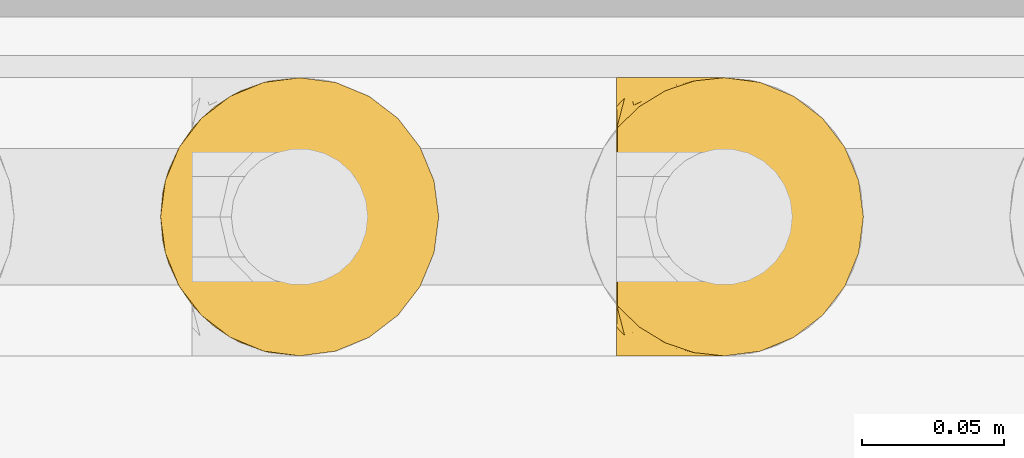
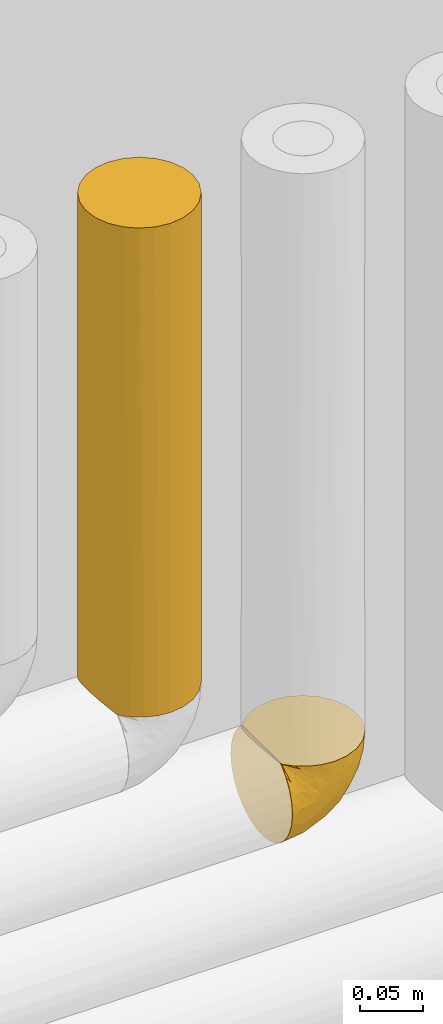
# One storey, part 57 of 94: 2 coverings.
"""IFC2X3 building model written with IfcOpenShell, lengths in millimetres."""

from ifc_helpers import new_model, entity, si_unit, converted_unit, derived_unit, direction, frame, origin, place, context, subcontext, project, spatial, faceted_brep, material, element, save


model = new_model("IFC2X3")

# Units and contexts
model_context = context("Model", 3, precision=0.01, world=origin(), true_north=direction((6.123031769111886e-17, 1.0)))
body_context = subcontext(model_context, "Body", "Model", "MODEL_VIEW")
ifc_project = project(units=[si_unit("LENGTHUNIT", "METRE", prefix="MILLI"), si_unit("AREAUNIT", "SQUARE_METRE"), si_unit("VOLUMEUNIT", "CUBIC_METRE"), converted_unit("PLANEANGLEUNIT", "DEGREE", entity("IfcRatioMeasure", 0.017453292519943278), si_unit("PLANEANGLEUNIT", "RADIAN"), dimensions=[0, 0, 0, 0, 0, 0, 0]), si_unit("MASSUNIT", "GRAM", prefix="KILO"), derived_unit("MASSDENSITYUNIT", [(si_unit("MASSUNIT", "GRAM", prefix="KILO"), 1), (si_unit("LENGTHUNIT", "METRE"), -3)]), derived_unit("IONCONCENTRATIONUNIT", [(si_unit("MASSUNIT", "GRAM", prefix="KILO"), 1), (si_unit("LENGTHUNIT", "METRE"), -3)]), derived_unit("MOMENTOFINERTIAUNIT", [(si_unit("LENGTHUNIT", "METRE"), 4)]), si_unit("TIMEUNIT", "SECOND"), si_unit("FREQUENCYUNIT", "HERTZ"), si_unit("THERMODYNAMICTEMPERATUREUNIT", "DEGREE_CELSIUS"), derived_unit("THERMALTRANSMITTANCEUNIT", [(si_unit("MASSUNIT", "GRAM", prefix="KILO"), 1), (si_unit("THERMODYNAMICTEMPERATUREUNIT", "KELVIN"), -1), (si_unit("TIMEUNIT", "SECOND"), -3)]), derived_unit("THERMALCONDUCTANCEUNIT", [(si_unit("MASSUNIT", "GRAM", prefix="KILO"), 1), (si_unit("THERMODYNAMICTEMPERATUREUNIT", "KELVIN"), -1), (si_unit("TIMEUNIT", "SECOND"), -3), (si_unit("LENGTHUNIT", "METRE"), 1)]), derived_unit("VOLUMETRICFLOWRATEUNIT", [(si_unit("LENGTHUNIT", "METRE"), 3), (si_unit("TIMEUNIT", "SECOND"), -1)]), derived_unit("MASSFLOWRATEUNIT", [(si_unit("MASSUNIT", "GRAM", prefix="KILO"), 1), (si_unit("TIMEUNIT", "SECOND"), -1)]), derived_unit("ROTATIONALFREQUENCYUNIT", [(si_unit("TIMEUNIT", "SECOND"), -1)]), si_unit("ELECTRICCURRENTUNIT", "AMPERE"), si_unit("ELECTRICVOLTAGEUNIT", "VOLT"), si_unit("POWERUNIT", "WATT"), si_unit("FORCEUNIT", "NEWTON", prefix="KILO"), si_unit("ILLUMINANCEUNIT", "LUX"), si_unit("LUMINOUSFLUXUNIT", "LUMEN"), si_unit("LUMINOUSINTENSITYUNIT", "CANDELA"), derived_unit("USERDEFINED", [(si_unit("MASSUNIT", "GRAM", prefix="KILO"), -1), (si_unit("LENGTHUNIT", "METRE"), -2), (si_unit("TIMEUNIT", "SECOND"), 3), (si_unit("LUMINOUSFLUXUNIT", "LUMEN"), 1)]), derived_unit("USERDEFINED", [(si_unit("MASSUNIT", "GRAM", prefix="KILO"), 1), (si_unit("TIMEUNIT", "SECOND"), -3), (si_unit("LENGTHUNIT", "METRE"), 3), (si_unit("ELECTRICCURRENTUNIT", "AMPERE"), -2)]), derived_unit("SOUNDPOWERUNIT", [(si_unit("MASSUNIT", "GRAM", prefix="KILO"), 1), (si_unit("TIMEUNIT", "SECOND"), -3), (si_unit("LENGTHUNIT", "METRE"), 2)]), derived_unit("SOUNDPRESSUREUNIT", [(si_unit("MASSUNIT", "GRAM", prefix="KILO"), 1), (si_unit("LENGTHUNIT", "METRE"), -1), (si_unit("TIMEUNIT", "SECOND"), -2)]), derived_unit("LINEARVELOCITYUNIT", [(si_unit("LENGTHUNIT", "METRE"), 1), (si_unit("TIMEUNIT", "SECOND"), -1)]), si_unit("PRESSUREUNIT", "PASCAL"), derived_unit("USERDEFINED", [(si_unit("MASSUNIT", "GRAM", prefix="KILO"), 1), (si_unit("LENGTHUNIT", "METRE"), -2), (si_unit("TIMEUNIT", "SECOND"), -2)]), derived_unit("LINEARFORCEUNIT", [(si_unit("MASSUNIT", "GRAM", prefix="KILO"), 1), (si_unit("TIMEUNIT", "SECOND"), -2)]), derived_unit("PLANARFORCEUNIT", [(si_unit("MASSUNIT", "GRAM", prefix="KILO"), 1), (si_unit("LENGTHUNIT", "METRE"), -1), (si_unit("TIMEUNIT", "SECOND"), -2)]), derived_unit("SPECIFICHEATCAPACITYUNIT", [(si_unit("THERMODYNAMICTEMPERATUREUNIT", "KELVIN"), -1), (si_unit("LENGTHUNIT", "METRE"), 2), (si_unit("TIMEUNIT", "SECOND"), -2)]), derived_unit("HEATINGVALUEUNIT", [(si_unit("LENGTHUNIT", "METRE"), 2), (si_unit("TIMEUNIT", "SECOND"), -2)]), derived_unit("VAPORPERMEABILITYUNIT", [(si_unit("LENGTHUNIT", "METRE"), -1), (si_unit("TIMEUNIT", "SECOND"), 1)]), derived_unit("DYNAMICVISCOSITYUNIT", [(si_unit("MASSUNIT", "GRAM", prefix="KILO"), 1), (si_unit("TIMEUNIT", "SECOND"), -1), (si_unit("LENGTHUNIT", "METRE"), -1)]), derived_unit("THERMALEXPANSIONCOEFFICIENTUNIT", [(si_unit("THERMODYNAMICTEMPERATUREUNIT", "KELVIN"), -1)]), derived_unit("MODULUSOFELASTICITYUNIT", [(si_unit("MASSUNIT", "GRAM", prefix="KILO"), 1), (si_unit("LENGTHUNIT", "METRE"), -1), (si_unit("TIMEUNIT", "SECOND"), -2)]), derived_unit("ISOTHERMALMOISTURECAPACITYUNIT", [(si_unit("LENGTHUNIT", "METRE"), 3), (si_unit("MASSUNIT", "GRAM", prefix="KILO"), -1)]), derived_unit("MOISTUREDIFFUSIVITYUNIT", [(si_unit("TIMEUNIT", "SECOND"), -1), (si_unit("LENGTHUNIT", "METRE"), 2)])], contexts=[model_context])

# Site, building, storey
site_placement = place(None, origin())
site = spatial("IfcSite", under=ifc_project, at=site_placement, Name="Default", CompositionType="ELEMENT")
building_placement = place(site_placement, origin())
building = spatial("IfcBuilding", under=site, at=building_placement, CompositionType="ELEMENT")
storey_placement = place(building_placement, origin())
storey = spatial("IfcBuildingStorey", under=building, at=storey_placement, Name="Niveau 0", CompositionType="ELEMENT", Elevation=0.0)

# Coverings
ifc_material = material(Name="Isolation - Laine minérale")
covering_1_placement = place(storey_placement, frame((-6198.767585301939, 9976.10035233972, 2599.2547277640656)))
element("IfcCovering", 1, at=covering_1_placement, inside=storey, material=ifc_material, Name="Isolation des canalisations:Laine minérale", ObjectType="Isolation des canalisations:Laine minérale", PredefinedType="INSULATION", context=body_context, shape_type="Brep", body=[
    faceted_brep([(1.5952722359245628, 95.02415814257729, 29.41213456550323), (1.5952722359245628, 89.1663101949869, 20.0932520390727), (1.5952722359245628, 81.38263886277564, 12.312548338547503), (1.5952722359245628, 72.06354573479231, 6.459227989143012), (1.5952722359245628, 61.67593083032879, 2.826140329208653), (1.5952722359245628, 50.74527223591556, 1.5952722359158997), (1.5952722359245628, 39.80290363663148, 2.828812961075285), (1.5952722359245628, 29.412134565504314, 6.466386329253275), (1.5952722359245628, 20.093252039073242, 12.324234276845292), (1.5952722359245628, 12.312548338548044, 20.10790560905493), (1.5952722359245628, 6.459227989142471, 29.426998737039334), (1.5952722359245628, 2.826140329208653, 39.814613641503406), (1.5952722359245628, 1.5952722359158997, 50.7452722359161), (1.5952722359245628, 2.765001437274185, 61.40435822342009), (1.5952722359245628, 6.216868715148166, 71.55257335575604), (1.5952722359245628, 11.785042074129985, 80.70896636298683), (1.5952722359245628, 19.19437336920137, 88.43165280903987), (1.5952722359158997, 21.638642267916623, 88.43165280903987), (1.5952722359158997, 23.415694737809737, 88.43165280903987), (1.5952722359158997, 25.192747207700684, 88.43165280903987), (1.5952722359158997, 26.692340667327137, 88.43165280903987), (1.5952722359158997, 28.191934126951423, 88.43165280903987), (1.5952722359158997, 31.191121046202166, 88.43165280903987), (1.5952722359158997, 34.19030796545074, 88.43165280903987), (1.5952722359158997, 37.18949488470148, 88.43165280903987), (1.5952722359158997, 40.18868180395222, 88.43165280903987), (1.5952722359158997, 41.68827526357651, 88.43165280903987), (1.5952722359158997, 43.1878687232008, 88.43165280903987), (1.5952722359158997, 45.63213762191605, 88.43165280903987), (1.5952722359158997, 48.07640652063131, 88.43165280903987), (1.5952722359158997, 50.5206754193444, 88.43165280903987), (1.5952722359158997, 52.96494431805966, 88.43165280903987), (1.5952722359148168, 55.40921321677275, 88.43165280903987), (1.5952722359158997, 57.853482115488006, 88.43165280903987), (1.5952722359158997, 60.2977510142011, 88.43165280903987), (1.5952722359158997, 62.74201991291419, 88.43165280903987), (1.5952722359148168, 65.18628881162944, 88.43165280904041), (1.5952722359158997, 67.6305577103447, 88.43165280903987), (1.5952722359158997, 70.0748266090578, 88.43165280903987), (1.5952722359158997, 72.51909550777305, 88.43165280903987), (1.5952722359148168, 74.96336440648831, 88.43165280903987), (1.5952722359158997, 77.4076333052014, 88.43165280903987), (1.5952722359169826, 79.85190220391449, 88.43165280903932), (1.5952722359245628, 82.29617110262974, 88.43165280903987), (1.5952722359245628, 89.71827412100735, 80.69235262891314), (1.5952722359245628, 95.28368576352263, 71.53113811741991), (1.5952722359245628, 98.73008326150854, 61.38390047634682), (1.5952722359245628, 99.89527223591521, 50.74527223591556), (1.5952722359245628, 98.66173151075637, 39.80290363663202), (9.641963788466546, 11.777056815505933, 88.74527223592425), (18.798688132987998, 6.211862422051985, 88.74527223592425), (28.94385431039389, 2.7632985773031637, 88.74527223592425), (39.59527223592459, 1.5952722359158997, 88.74527223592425), (52.31622830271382, 3.270017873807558, 88.74527223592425), (64.17027223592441, 8.18012363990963, 88.74527223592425), (74.34957053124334, 15.990973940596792, 88.74527223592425), (82.16042083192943, 26.170272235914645, 88.74527223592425), (87.07052659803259, 38.02431616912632, 88.74527223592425), (88.74527223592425, 50.74527223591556, 88.74527223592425), (87.07052659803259, 63.46622830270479, 88.74527223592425), (82.16042083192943, 75.3202722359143, 88.74527223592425), (74.34957053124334, 85.49957053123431, 88.74527223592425), (64.17027223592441, 93.31042083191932, 88.74527223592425), (52.31622830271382, 98.22052659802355, 88.74527223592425), (39.59527223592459, 99.89527223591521, 88.74527223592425), (28.94385431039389, 98.72724589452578, 88.74527223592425), (18.798688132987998, 95.27868204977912, 88.74527223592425), (9.641963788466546, 89.71348765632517, 88.74527223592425), (1.908891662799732, 82.29617110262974, 88.74527223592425), (1.908891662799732, 79.85190220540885, 88.74527223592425), (1.908891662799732, 78.3523087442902, 88.74527223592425), (1.908891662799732, 76.3803775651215, 88.74527223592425), (1.908891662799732, 74.40844638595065, 88.74527223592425), (1.908891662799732, 72.43651520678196, 88.74527223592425), (1.908891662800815, 70.46458402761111, 88.74527223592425), (1.908891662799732, 68.49265284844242, 88.74527223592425), (1.908891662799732, 66.52072166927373, 88.74527223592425), (1.908891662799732, 64.54879049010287, 88.74527223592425), (1.908891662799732, 62.57685931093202, 88.74527223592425), (1.908891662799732, 60.60492813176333, 88.74527223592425), (1.908891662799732, 58.632996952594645, 88.74527223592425), (1.908891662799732, 56.66106577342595, 88.74527223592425), (1.908891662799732, 54.6891345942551, 88.74527223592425), (1.908891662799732, 52.71720341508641, 88.74527223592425), (1.908891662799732, 50.74527223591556, 88.74527223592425), (1.9088916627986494, 48.773341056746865, 88.74527223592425), (1.9088916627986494, 46.80140987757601, 88.74527223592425), (1.908891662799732, 44.82947869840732, 88.74527223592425), (1.908891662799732, 42.85754751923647, 88.74527223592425), (1.9088916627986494, 40.88561634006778, 88.74527223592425), (1.9088916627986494, 38.913685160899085, 88.74527223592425), (1.908891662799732, 36.94175398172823, 88.74527223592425), (1.908891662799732, 34.96982280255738, 88.74527223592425), (1.9088916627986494, 31.97063588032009, 88.74527223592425), (1.908891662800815, 28.971448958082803, 88.74527223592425), (1.908891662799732, 26.5271800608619, 88.74527223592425), (1.9088916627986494, 24.082911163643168, 88.74527223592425), (1.908891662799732, 21.638642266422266, 88.74527223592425), (1.908891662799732, 19.19437336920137, 88.74527223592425), (1.8241875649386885, 53.75333970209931, 88.53090125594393), (1.815624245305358, 51.832765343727, 88.52210831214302), (1.8147227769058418, 61.47290163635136, 88.52122178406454), (1.8212241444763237, 63.562825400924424, 88.5277799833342), (1.8331787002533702, 48.00102702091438, 88.54092532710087), (1.828016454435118, 77.2499939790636, 88.5350645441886), (1.7792781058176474, 80.69913834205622, 88.49130573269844), (1.8114926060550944, 42.43807145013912, 88.51810292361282), (1.8170346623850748, 22.860776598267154, 88.52350981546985), (1.81898896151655, 24.70021643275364, 88.52548149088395), (1.8098308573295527, 71.3700895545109, 88.51653277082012), (1.820221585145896, 73.40383885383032, 88.52674320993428), (1.796462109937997, 44.410002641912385, 88.5046900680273), (1.8230063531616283, 37.92771907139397, 88.52964682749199), (1.8262968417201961, 39.81308540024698, 88.5331760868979), (1.8091041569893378, 35.95578792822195, 88.51585328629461), (1.8225274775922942, 49.75930651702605, 88.52914218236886), (1.817034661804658, 79.10210557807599, 88.52350981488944), (1.8194169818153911, 21.02757498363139, 88.52591800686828), (1.8294378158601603, 55.67510065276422, 88.5366490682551), (1.8301744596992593, 67.50668767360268, 88.5374788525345), (1.82588831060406, 65.61454699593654, 88.5327319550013), (1.8272900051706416, 34.104580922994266, 88.53426299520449), (1.8267767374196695, 57.55217518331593, 88.53370000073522), (1.8278964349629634, 75.39441218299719, 88.53493173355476), (1.8170346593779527, 82.29617110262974, 88.52350981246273), (1.747915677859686, 82.29617110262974, 88.49487979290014), (1.6787966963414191, 82.2961711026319, 88.46624977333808), (1.8170346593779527, 19.19437336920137, 88.52350981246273), (1.8456646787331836, 19.19437336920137, 88.59262879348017), (1.8742946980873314, 19.194373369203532, 88.66174777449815), (1.802653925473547, 32.212157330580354, 88.51000647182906), (1.8237404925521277, 69.4355922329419, 88.5304248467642), (1.8159875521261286, 46.248287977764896, 88.52246762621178), (1.8182226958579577, 59.49061335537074, 88.52470424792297), (1.7977740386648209, 29.41925201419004, 88.50579329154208), (1.8208977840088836, 27.44213716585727, 88.52744143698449), (1.8742946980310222, 82.29617110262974, 88.66174777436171), (1.845664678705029, 82.29617110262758, 88.59262879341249), (1.6787966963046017, 19.19437336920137, 88.46624977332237), (1.7479156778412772, 19.19437336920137, 88.49487979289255), (23.495219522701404, 4.210283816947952, 85.22080157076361), (13.747756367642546, 8.744179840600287, 85.93611072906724), (22.409779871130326, 4.210283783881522, 81.07807843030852), (10.562522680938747, 9.955583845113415, 83.13289242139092), (37.049754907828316, 1.5952722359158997, 79.24527223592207), (37.59734391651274, 1.5952722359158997, 81.28890223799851), (20.595272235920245, 1.5952722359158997, 55.83630689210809), (16.020149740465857, 2.93549782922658, 66.39553001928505), (9.261677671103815, 4.213452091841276, 67.94040403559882), (34.50423757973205, 1.5952722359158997, 69.7452722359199), (9.66789749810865, 9.405305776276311, 80.67378389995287), (7.20291242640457, 9.963487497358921, 79.7889209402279), (23.94474674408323, 2.9356418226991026, 74.3210935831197), (5.119390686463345, 4.213452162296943, 66.85470593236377), (4.402893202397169, 8.750654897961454, 76.6033636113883), (17.541506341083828, 5.690627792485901, 79.64911936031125), (9.051642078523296, 1.5952722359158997, 52.74320051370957), (11.095272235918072, 1.5952722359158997, 53.290789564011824), (16.72885944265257, 4.482619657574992, 73.61168493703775), (27.549754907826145, 1.5952722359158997, 62.790789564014), (12.071559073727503, 5.766057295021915, 73.87988529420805), (47.62395095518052, 2.6117250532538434, 75.32913676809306), (44.00144112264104, 2.657531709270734, 65.9107418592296), (58.899698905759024, 11.131578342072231, 53.84761415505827), (72.66771487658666, 20.824647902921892, 59.13651173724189), (67.20155656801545, 11.7519547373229, 71.16612245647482), (54.07984229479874, 5.336592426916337, 67.00545271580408), (57.54110754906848, 5.33659286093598, 78.88051287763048), (72.10110329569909, 50.74527223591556, 37.51978749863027), (84.47984763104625, 50.74527223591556, 61.81444117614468), (80.24801351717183, 40.339739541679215, 53.87520138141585), (13.851436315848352, 9.12424327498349, 25.784943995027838), (15.165285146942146, 4.351045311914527, 36.244182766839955), (60.7776584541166, 32.64695426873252, 29.562882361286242), (55.385836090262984, 23.768909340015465, 30.770681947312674), (43.89737524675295, 35.61531809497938, 15.292222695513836), (86.12648113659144, 41.696133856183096, 71.31385843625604), (73.23168363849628, 30.50981773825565, 47.24102741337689), (64.74738573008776, 21.748430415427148, 43.50389303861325), (77.40373146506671, 20.824647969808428, 75.289852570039), (82.14716981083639, 31.9363827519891, 67.10273039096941), (52.82911549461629, 15.984346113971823, 37.099200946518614), (48.878965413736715, 9.509703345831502, 44.515176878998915), (40.607220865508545, 11.405769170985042, 33.70477633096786), (28.76995319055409, 3.723532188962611, 44.051694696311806), (27.448445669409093, 9.124242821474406, 30.044081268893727), (19.800365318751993, 15.984347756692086, 18.312338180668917), (28.52610329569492, 50.74527223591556, 5.860696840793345), (22.71562192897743, 34.50535109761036, 7.041406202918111), (42.31748570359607, 18.53593481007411, 25.61446965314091), (33.68382770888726, 24.588194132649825, 15.886915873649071), (16.806973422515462, 24.58819389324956, 10.600409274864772), (71.07858054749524, 39.07585882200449, 38.50378416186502), (60.332491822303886, 42.346184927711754, 25.34518062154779), (33.37332146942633, 2.563252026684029, 53.16350413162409), (52.82075697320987, 50.74527223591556, 18.23944117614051), (43.46542968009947, 4.72244931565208, 52.69469876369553), (79.2001746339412, 69.55416102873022, 58.175892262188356), (86.24488809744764, 59.5851078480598, 71.70091272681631), (80.83807017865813, 59.865425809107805, 54.574333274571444), (72.52816019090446, 66.13789702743, 42.49805076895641), (83.87397883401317, 69.55416221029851, 75.06235489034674), (35.798660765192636, 85.49332197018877, 24.525141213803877), (48.02046276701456, 78.98858976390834, 25.78634265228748), (33.68736739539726, 76.88743080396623, 15.878231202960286), (52.83844921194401, 85.49294527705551, 37.089792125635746), (59.75598123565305, 78.28666517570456, 35.71336208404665), (15.17001623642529, 97.13479117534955, 36.23150879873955), (45.55141709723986, 98.95303587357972, 70.53804152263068), (34.50423757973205, 99.89527223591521, 69.7452722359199), (37.049754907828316, 99.89527223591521, 79.24527223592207), (22.71467774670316, 66.97173870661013, 7.036299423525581), (76.07714087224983, 80.665896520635, 69.24086116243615), (27.45465165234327, 92.35692696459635, 30.030512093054), (13.854008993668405, 92.35692651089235, 25.770245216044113), (68.47065883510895, 89.73858944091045, 76.87540408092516), (56.45843349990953, 96.15395178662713, 74.00473445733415), (68.08854506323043, 79.62483877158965, 48.41047025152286), (64.29272071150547, 89.7385902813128, 62.62553049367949), (66.01125638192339, 59.508159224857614, 31.22077674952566), (60.78019542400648, 68.83452868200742, 29.56034539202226), (48.01911236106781, 99.01263503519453, 79.82666983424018), (16.809109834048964, 76.88743104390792, 10.591274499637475), (43.900853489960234, 65.85652255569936, 15.287247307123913), (19.80368192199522, 85.49294363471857, 18.299506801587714), (28.786726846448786, 97.76388503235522, 44.049870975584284), (20.595272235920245, 99.89527223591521, 55.83630689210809), (35.485066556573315, 98.78930951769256, 54.23536248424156), (27.549754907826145, 99.89527223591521, 62.790789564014), (9.051642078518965, 99.89527223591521, 52.74320051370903), (11.095272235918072, 99.89527223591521, 53.290789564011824), (53.16291239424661, 91.50386042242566, 48.41211537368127), (52.05308452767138, 96.4268312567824, 64.14304703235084), (41.401037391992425, 93.14991945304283, 40.10640265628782), (40.721221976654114, 99.08337182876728, 62.89073418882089), (60.91677547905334, 86.09107557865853, 47.67277833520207), (45.94061161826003, 96.67816905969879, 55.38955823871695), (22.409778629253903, 97.28026029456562, 81.0780784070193), (16.46425424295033, 95.72662397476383, 78.26566497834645), (23.943292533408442, 98.55465842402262, 74.32072912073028), (23.495218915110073, 97.28026045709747, 85.22080145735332), (13.74775580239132, 92.74636428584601, 85.93611080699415), (10.564867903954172, 91.53641117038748, 83.13257230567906), (7.656624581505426, 90.11275627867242, 82.68198005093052), (16.72348133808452, 97.0051951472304, 73.61706381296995), (7.216517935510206, 91.54965419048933, 79.75777141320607), (9.263185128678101, 97.2842704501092, 67.91845358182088), (5.119593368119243, 97.28427059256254, 66.83334757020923), (4.405878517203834, 92.75147496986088, 76.58449008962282), (16.01862728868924, 98.55441347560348, 66.3977076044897), (10.692146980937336, 95.80583125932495, 72.78382599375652)], [[[0, 1, 2, 3, 4, 5, 6, 7, 8, 9, 10, 11, 12, 13, 14, 15, 16, 17, 18, 19, 20, 21, 22, 23, 24, 25, 26, 27, 28, 29, 30, 31, 32, 33, 34, 35, 36, 37, 38, 39, 40, 41, 42, 43, 44, 45, 46, 47, 48]], [[49, 50, 51, 52, 53, 54, 55, 56, 57, 58, 59, 60, 61, 62, 63, 64, 65, 66, 67, 68, 69, 70, 71, 72, 73, 74, 75, 76, 77, 78, 79, 80, 81, 82, 83, 84, 85, 86, 87, 88, 89, 90, 91, 92, 93, 94, 95, 96, 97, 98]], [[99, 100, 83]], [[101, 102, 35]], [[85, 103, 86]], [[71, 70, 104]], [[105, 69, 68]], [[27, 26, 106]], [[18, 107, 108]], [[109, 73, 110]], [[28, 27, 111]], [[25, 112, 113]], [[108, 96, 95]], [[114, 92, 91]], [[103, 85, 115]], [[96, 107, 97]], [[116, 70, 69]], [[107, 17, 117]], [[78, 102, 101]], [[99, 118, 32]], [[76, 119, 120]], [[121, 92, 114]], [[112, 90, 113]], [[88, 111, 106]], [[40, 39, 110]], [[107, 96, 108]], [[32, 118, 122]], [[91, 90, 112]], [[37, 120, 119]], [[84, 115, 85]], [[69, 105, 116]], [[71, 123, 72]], [[105, 124, 125, 126, 43]], [[117, 17, 16]], [[41, 116, 42]], [[117, 127, 128, 129, 98]], [[110, 123, 40]], [[42, 116, 105]], [[121, 23, 130]], [[24, 114, 112]], [[114, 24, 23]], [[104, 123, 71]], [[91, 112, 114]], [[104, 116, 41]], [[24, 112, 25]], [[110, 72, 123]], [[36, 120, 37]], [[40, 123, 41]], [[74, 73, 109]], [[131, 75, 74]], [[119, 131, 37]], [[109, 110, 39]], [[109, 39, 38]], [[73, 72, 110]], [[123, 104, 41]], [[116, 104, 70]], [[26, 25, 113]], [[113, 89, 106]], [[87, 86, 132]], [[113, 106, 26]], [[76, 75, 119]], [[132, 111, 87]], [[106, 111, 27]], [[132, 28, 111]], [[87, 111, 88]], [[88, 106, 89]], [[113, 90, 89]], [[131, 119, 75]], [[38, 37, 131]], [[120, 36, 102]], [[131, 109, 38]], [[109, 131, 74]], [[78, 77, 102]], [[77, 120, 102]], [[77, 76, 120]], [[122, 80, 133]], [[36, 35, 102]], [[33, 122, 133]], [[79, 78, 101]], [[34, 101, 35]], [[132, 29, 28]], [[80, 79, 133]], [[29, 103, 115]], [[30, 29, 115]], [[86, 103, 132]], [[100, 115, 84]], [[31, 30, 100]], [[115, 100, 30]], [[32, 31, 99]], [[118, 81, 122]], [[100, 84, 83]], [[99, 82, 118]], [[81, 118, 82]], [[33, 32, 122]], [[82, 99, 83]], [[100, 99, 31]], [[34, 33, 133]], [[122, 81, 80]], [[133, 101, 34]], [[101, 133, 79]], [[134, 94, 93]], [[23, 121, 114]], [[132, 103, 29]], [[121, 93, 92]], [[93, 121, 130]], [[97, 107, 117]], [[108, 20, 19, 18]], [[21, 135, 134]], [[20, 135, 21]], [[134, 135, 94]], [[108, 95, 135]], [[108, 135, 20]], [[135, 95, 94]], [[134, 22, 21]], [[130, 22, 134]], [[42, 105, 43]], [[105, 68, 136, 137, 124]], [[97, 117, 98]], [[117, 16, 138, 139, 127]], [[18, 17, 107]], [[93, 130, 134]], [[22, 130, 23]], [[140, 141, 142]], [[143, 129, 128, 127]], [[51, 144, 145, 52]], [[146, 147, 148]], [[142, 149, 144]], [[150, 127, 151]], [[50, 140, 51]], [[142, 152, 149]], [[51, 140, 144]], [[129, 143, 141]], [[14, 13, 153]], [[148, 151, 154]], [[155, 141, 143]], [[151, 138, 154]], [[14, 153, 154]], [[16, 15, 138]], [[13, 12, 156, 157]], [[152, 155, 158]], [[159, 158, 147]], [[157, 148, 153]], [[14, 154, 15]], [[49, 98, 129]], [[49, 129, 141]], [[141, 50, 49]], [[160, 148, 147]], [[146, 148, 157]], [[138, 15, 154]], [[150, 158, 155]], [[151, 127, 139, 138]], [[141, 140, 50]], [[144, 140, 142]], [[157, 153, 13]], [[154, 153, 148]], [[149, 152, 159]], [[160, 147, 158]], [[147, 146, 159]], [[155, 152, 142]], [[159, 152, 158]], [[127, 150, 143]], [[160, 150, 151]], [[150, 160, 158]], [[148, 160, 151]], [[141, 155, 142]], [[155, 143, 150]], [[156, 12, 11]], [[161, 149, 162]], [[163, 164, 165]], [[166, 167, 161]], [[168, 169, 170]], [[54, 165, 55]], [[171, 172, 10]], [[173, 174, 175]], [[57, 176, 58]], [[173, 177, 178]], [[179, 56, 55]], [[54, 167, 165]], [[170, 180, 177]], [[56, 179, 180]], [[167, 54, 53]], [[181, 182, 183]], [[184, 146, 172]], [[172, 185, 184]], [[186, 185, 171]], [[186, 9, 8]], [[172, 146, 157, 156]], [[172, 11, 10]], [[173, 178, 174]], [[6, 187, 188]], [[189, 186, 190]], [[191, 186, 8]], [[175, 190, 188]], [[168, 192, 193]], [[189, 190, 174]], [[56, 180, 57]], [[8, 7, 191]], [[188, 7, 6]], [[6, 5, 187]], [[190, 191, 188]], [[159, 194, 162]], [[175, 187, 195]], [[177, 180, 164]], [[10, 9, 171]], [[176, 180, 170]], [[156, 11, 172]], [[163, 165, 166]], [[179, 165, 164]], [[53, 52, 145]], [[185, 189, 183]], [[184, 196, 194]], [[188, 191, 7]], [[186, 191, 190]], [[186, 171, 9]], [[172, 171, 185]], [[187, 175, 188]], [[193, 175, 195]], [[196, 163, 166]], [[163, 181, 178]], [[162, 166, 161]], [[184, 185, 183]], [[178, 177, 164]], [[177, 192, 170]], [[177, 173, 192]], [[176, 170, 169]], [[58, 176, 169]], [[57, 180, 176]], [[193, 192, 173]], [[168, 170, 192]], [[175, 193, 173]], [[168, 193, 195]], [[163, 178, 164]], [[184, 194, 146]], [[178, 181, 174]], [[189, 174, 181]], [[175, 174, 190]], [[183, 189, 181]], [[186, 189, 185]], [[182, 181, 163]], [[183, 182, 184]], [[163, 196, 182]], [[184, 182, 196]], [[165, 179, 55]], [[180, 179, 164]], [[161, 53, 145]], [[165, 167, 166]], [[53, 161, 167]], [[161, 145, 144, 149]], [[159, 162, 149]], [[196, 166, 162]], [[162, 194, 196]], [[146, 194, 159]], [[197, 198, 199]], [[58, 169, 198]], [[197, 199, 200]], [[198, 197, 201]], [[202, 203, 204]], [[60, 59, 201]], [[205, 206, 203]], [[0, 48, 207]], [[208, 209, 210]], [[187, 4, 211]], [[201, 212, 60]], [[213, 214, 207]], [[61, 215, 62]], [[62, 215, 216]], [[3, 211, 4]], [[217, 218, 212]], [[219, 220, 200]], [[216, 208, 221]], [[3, 2, 222]], [[62, 216, 63]], [[61, 60, 212]], [[211, 3, 222]], [[5, 4, 187]], [[217, 197, 200]], [[203, 223, 204]], [[2, 1, 224]], [[225, 213, 207]], [[204, 222, 224]], [[1, 0, 214]], [[204, 224, 202]], [[207, 226, 225]], [[227, 226, 228]], [[223, 211, 204]], [[214, 224, 1]], [[202, 224, 213]], [[48, 47, 229]], [[207, 229, 230, 226]], [[211, 223, 187]], [[218, 231, 232]], [[48, 229, 207]], [[205, 233, 231]], [[233, 213, 225]], [[217, 212, 197]], [[215, 212, 218]], [[228, 234, 227]], [[233, 205, 202]], [[208, 234, 209]], [[63, 221, 64]], [[235, 205, 231]], [[207, 214, 0]], [[224, 214, 213]], [[224, 222, 2]], [[211, 222, 204]], [[219, 223, 220]], [[187, 223, 195]], [[227, 233, 225]], [[234, 228, 209]], [[231, 233, 236]], [[221, 208, 210]], [[232, 208, 216]], [[64, 221, 210]], [[216, 221, 63]], [[233, 202, 213]], [[203, 202, 205]], [[205, 235, 206]], [[223, 203, 220]], [[200, 206, 217]], [[220, 203, 206]], [[232, 231, 236]], [[235, 218, 217]], [[212, 215, 61]], [[216, 215, 218]], [[218, 232, 216]], [[234, 232, 236]], [[232, 234, 208]], [[234, 236, 227]], [[233, 227, 236]], [[226, 227, 225]], [[198, 201, 59]], [[212, 201, 197]], [[58, 198, 59]], [[198, 169, 199]], [[169, 168, 199]], [[219, 200, 199]], [[219, 199, 168]], [[200, 220, 206]], [[168, 195, 219]], [[223, 219, 195]], [[218, 235, 231]], [[206, 235, 217]], [[65, 64, 210]], [[209, 237, 210]], [[238, 237, 239]], [[66, 240, 241]], [[242, 136, 241]], [[243, 137, 242]], [[243, 244, 245]], [[65, 240, 66]], [[136, 68, 67]], [[136, 67, 241]], [[246, 226, 230]], [[66, 241, 67]], [[210, 237, 240]], [[45, 247, 46]], [[209, 239, 237]], [[246, 247, 248]], [[46, 247, 230]], [[249, 250, 244]], [[239, 228, 244]], [[226, 246, 249]], [[250, 248, 245]], [[44, 43, 126]], [[237, 242, 241]], [[248, 45, 44]], [[44, 126, 248]], [[46, 230, 229, 47]], [[245, 126, 125]], [[126, 245, 248]], [[243, 124, 137]], [[210, 240, 65]], [[241, 240, 237]], [[248, 247, 45]], [[230, 247, 246]], [[226, 249, 228]], [[238, 239, 244]], [[239, 209, 228]], [[250, 249, 246]], [[228, 249, 244]], [[243, 242, 238]], [[136, 242, 137]], [[124, 243, 125]], [[125, 243, 245]], [[243, 238, 244]], [[237, 238, 242]], [[248, 250, 246]], [[244, 250, 245]]]),
])
covering_2_placement = place(storey_placement, frame((-6359.897585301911, 9976.120352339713, 3262.0)))
element("IfcCovering", 2, at=covering_2_placement, inside=storey, material=ifc_material, Name="Isolation des canalisations:Laine minérale", ObjectType="Isolation des canalisations:Laine minérale", PredefinedType="INSULATION", context=body_context, shape_type="Brep", body=[
    faceted_brep([(29.696487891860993, 6.3231649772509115, -474.0), (20.47495615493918, 12.012544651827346, -474.0), (12.725272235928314, 19.58435221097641, -474.0), (12.725272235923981, 81.86619226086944, -474.0), (20.47495615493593, 89.4379998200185, -474.0), (29.696487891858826, 95.1273794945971, -474.0), (39.94049838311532, 98.65694811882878, -474.0), (50.72527223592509, 99.85527223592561, -474.0), (63.44105192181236, 98.18120808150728, -474.0), (75.29027223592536, 93.27310032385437, -474.0), (85.46542839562, 85.46542839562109, -474.0), (93.27310032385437, 75.29027223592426, -474.0), (98.18120808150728, 63.44105192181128, -474.0), (99.85527223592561, 50.72527223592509, -474.0), (98.18120808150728, 38.0094925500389, -474.0), (93.27310032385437, 26.16027223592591, -474.0), (85.46542839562, 15.985116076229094, -474.0), (75.29027223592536, 8.177444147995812, -474.0), (63.44105192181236, 3.2693363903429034, -474.0), (50.72527223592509, 1.5952722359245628, -474.0), (39.9404983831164, 2.7935963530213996, -474.0), (8.17744414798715, 26.160272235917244, 0.0), (15.985116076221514, 15.98511607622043, 0.0), (26.160272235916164, 8.17744414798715, 0.0), (38.00949255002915, 3.26933639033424, 0.0), (50.72527223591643, 1.5952722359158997, 0.0), (63.4410519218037, 3.26933639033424, 0.0), (75.29027223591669, 8.17744414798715, 0.0), (85.46542839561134, 15.98511607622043, 0.0), (93.2731003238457, 26.160272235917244, 0.0), (98.18120808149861, 38.00949255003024, 0.0), (99.85527223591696, 50.72527223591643, 0.0), (98.18120808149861, 63.44105192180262, 0.0), (93.2731003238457, 75.29027223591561, 0.0), (85.46542839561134, 85.46542839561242, 0.0), (75.29027223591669, 93.2731003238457, 0.0), (63.4410519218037, 98.18120808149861, 0.0), (50.72527223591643, 99.85527223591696, 0.0), (38.00949255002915, 98.18120808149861, 0.0), (26.160272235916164, 93.2731003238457, 0.0), (15.985116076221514, 85.46542839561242, 0.0), (8.17744414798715, 75.29027223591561, 0.0), (3.26933639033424, 63.44105192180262, 0.0), (1.5952722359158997, 50.72527223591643, 0.0), (3.26933639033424, 38.00949255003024, 0.0), (4.461372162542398, 34.190204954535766, -465.7360999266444), (2.3170998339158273, 42.33445912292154, -463.5918275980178), (1.5952722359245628, 50.72527223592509, -462.87000000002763), (7.965081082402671, 26.531823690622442, -469.2398088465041), (2.3170998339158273, 59.116085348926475, -463.59182759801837), (4.461372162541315, 67.26033951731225, -465.73609992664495), (7.965081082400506, 74.9187207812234, -469.2398088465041)], [[[0, 1, 2, 3, 4, 5, 6, 7, 8, 9, 10, 11, 12, 13, 14, 15, 16, 17, 18, 19, 20]], [[21, 22, 23, 24, 25, 26, 27, 28, 29, 30, 31, 32, 33, 34, 35, 36, 37, 38, 39, 40, 41, 42, 43, 44]], [[30, 29, 15, 14]], [[31, 30, 14, 13]], [[29, 28, 16, 15]], [[18, 17, 27, 26]], [[19, 18, 26, 25]], [[28, 27, 17, 16]], [[20, 25, 24]], [[0, 24, 23]], [[1, 23, 22]], [[19, 25, 20]], [[20, 24, 0]], [[23, 1, 0]], [[22, 2, 1]], [[45, 21, 44]], [[44, 43, 46]], [[47, 46, 43]], [[48, 2, 21]], [[46, 45, 44]], [[48, 21, 45]], [[21, 2, 22]], [[49, 47, 43]], [[49, 43, 42]], [[50, 42, 41]], [[50, 49, 42]], [[3, 51, 41]], [[50, 41, 51]], [[41, 40, 3]], [[4, 40, 39]], [[5, 39, 38]], [[6, 38, 37]], [[4, 39, 5]], [[5, 38, 6]], [[37, 7, 6]], [[40, 4, 3]], [[8, 7, 37, 36]], [[9, 8, 36, 35]], [[35, 34, 10, 9]], [[12, 11, 33, 32]], [[13, 12, 32, 31]], [[34, 33, 11, 10]], [[46, 47, 49, 50, 51, 3, 2, 48, 45]]]),
])

save(model, "model.ifc")
